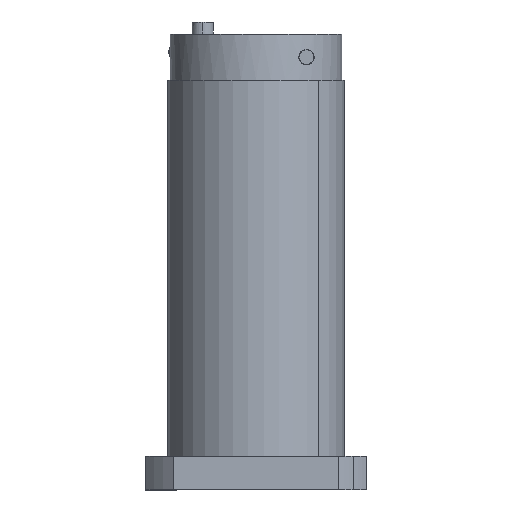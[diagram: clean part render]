
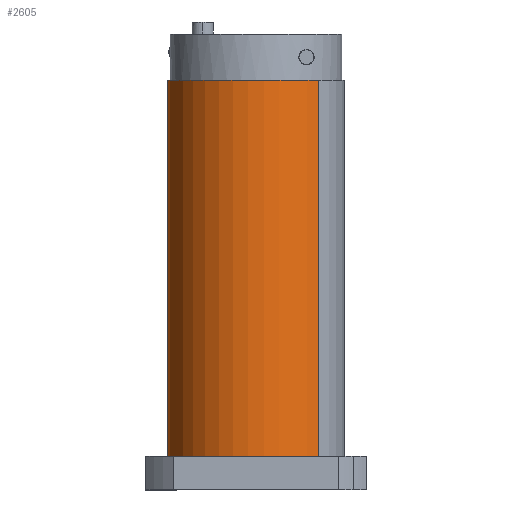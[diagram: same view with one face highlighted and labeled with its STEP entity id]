
A CAD part, left-side view. The second image highlights one B-rep face of the part: STEP entity #2605.
In plain terms, the highlighted cylindrical face has radius 29 mm (diameter 58 mm), a partial arc.
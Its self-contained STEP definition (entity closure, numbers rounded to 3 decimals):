
#203 = CARTESIAN_POINT ( 'NONE',  ( 19.385, 17.914, 78. ) ) ;
#428 = VERTEX_POINT ( 'NONE', #6668 ) ;
#545 = VERTEX_POINT ( 'NONE', #203 ) ;
#927 = ORIENTED_EDGE ( 'NONE', *, *, #3750, .T. ) ;
#957 = LINE ( 'NONE', #6040, #1537 ) ;
#1106 = DIRECTION ( 'NONE',  ( -0.707, -0.707, 0. ) ) ;
#1496 = ORIENTED_EDGE ( 'NONE', *, *, #3589, .F. ) ;
#1537 = VECTOR ( 'NONE', #6092, 1000. ) ;
#1684 = CIRCLE ( 'NONE', #1834, 29. ) ;
#1734 = VERTEX_POINT ( 'NONE', #5180 ) ;
#1834 = AXIS2_PLACEMENT_3D ( 'NONE', #4790, #5466, #1106 ) ;
#2605 = ADVANCED_FACE ( 'NONE', ( #3169 ), #9133, .T. ) ;
#3169 = FACE_OUTER_BOUND ( 'NONE', #4868, .T. ) ;
#3499 = VERTEX_POINT ( 'NONE', #7167 ) ;
#3555 = DIRECTION ( 'NONE',  ( -0.707, -0.707, 0. ) ) ;
#3589 = EDGE_CURVE ( 'NONE', #428, #545, #1684, .T. ) ;
#3750 = EDGE_CURVE ( 'NONE', #3499, #545, #957, .T. ) ;
#4063 = CARTESIAN_POINT ( 'NONE',  ( -21.627, -23.098, 139.5 ) ) ;
#4243 = AXIS2_PLACEMENT_3D ( 'NONE', #7277, #6466, #3555 ) ;
#4249 = LINE ( 'NONE', #4063, #6096 ) ;
#4790 = CARTESIAN_POINT ( 'NONE',  ( -1.121, -2.592, 78. ) ) ;
#4868 = EDGE_LOOP ( 'NONE', ( #9377, #927, #1496, #6158 ) ) ;
#4981 = DIRECTION ( 'NONE',  ( 0., 0., -1. ) ) ;
#5180 = CARTESIAN_POINT ( 'NONE',  ( -21.627, -23.098, 201. ) ) ;
#5390 = DIRECTION ( 'NONE',  ( 0., 0., -1. ) ) ;
#5466 = DIRECTION ( 'NONE',  ( 0., 0., -1. ) ) ;
#5952 = CIRCLE ( 'NONE', #4243, 29. ) ;
#6040 = CARTESIAN_POINT ( 'NONE',  ( 19.385, 17.914, 139.5 ) ) ;
#6092 = DIRECTION ( 'NONE',  ( 0., 0., -1. ) ) ;
#6096 = VECTOR ( 'NONE', #4981, 1000. ) ;
#6158 = ORIENTED_EDGE ( 'NONE', *, *, #7453, .F. ) ;
#6466 = DIRECTION ( 'NONE',  ( 0., 0., -1. ) ) ;
#6668 = CARTESIAN_POINT ( 'NONE',  ( -21.627, -23.098, 78. ) ) ;
#7167 = CARTESIAN_POINT ( 'NONE',  ( 19.385, 17.914, 201. ) ) ;
#7277 = CARTESIAN_POINT ( 'NONE',  ( -1.121, -2.592, 201. ) ) ;
#7374 = AXIS2_PLACEMENT_3D ( 'NONE', #9044, #5390, #8339 ) ;
#7453 = EDGE_CURVE ( 'NONE', #1734, #428, #4249, .T. ) ;
#8339 = DIRECTION ( 'NONE',  ( -0.707, -0.707, 0. ) ) ;
#8994 = EDGE_CURVE ( 'NONE', #1734, #3499, #5952, .T. ) ;
#9044 = CARTESIAN_POINT ( 'NONE',  ( -1.121, -2.592, 139.5 ) ) ;
#9133 = CYLINDRICAL_SURFACE ( 'NONE', #7374, 29. ) ;
#9377 = ORIENTED_EDGE ( 'NONE', *, *, #8994, .T. ) ;
